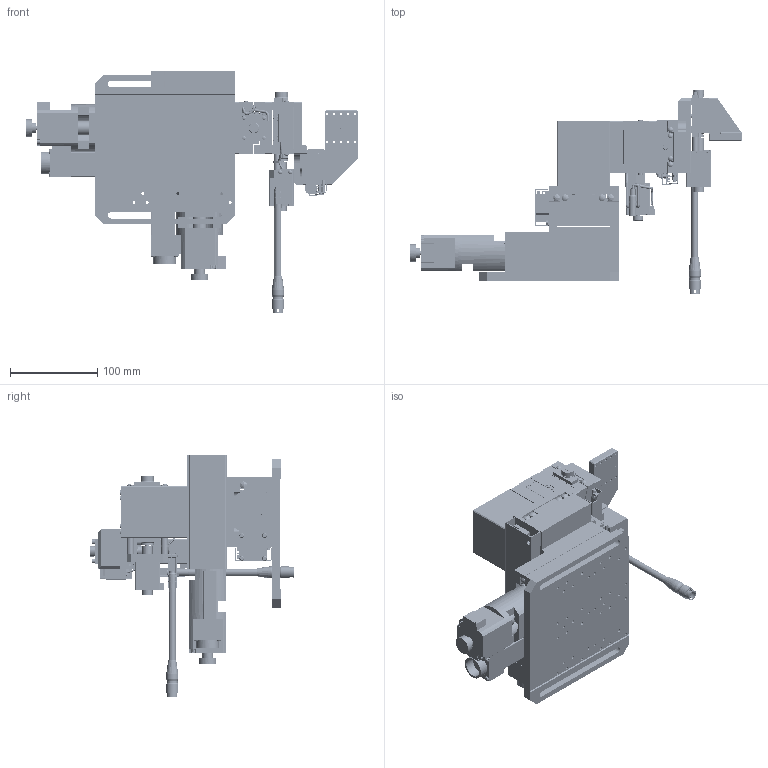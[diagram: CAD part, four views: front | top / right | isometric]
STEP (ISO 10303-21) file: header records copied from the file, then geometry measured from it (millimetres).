
FILE_DESCRIPTION (( 'STEP AP203' ), '1' );
FILE_NAME ('ES5212-L.STEP', '2024-09-18T05:38:43', ( '' ), ( '' ), 'SwSTEP 2.0', 'SolidWorks 2017', '' );
FILE_SCHEMA (( 'CONFIG_CONTROL_DESIGN' ));
Length unit declared in the file: millimetre
Products named in the file (61): ES5212-L+01-prt35; ES5212-L+01-prt23; ES5212-L+01-prt37; ES5212-L+01-prt58; ES5212-L+01-prt17; ES5212-L+01-prt5; ES5212-L+01-prt18; ES5212-L+01-prt26; ES5212-L+01-prt8; ES5212-L+01-prt47; ES5212-L+01-prt53; ES5212-L+01-prt41; ES5212-L+01-prt30; ES5212-L+01-prt27; ES5212-L+01-prt11; ES5212-L+01-prt43; ES5212-L+01-prt2; ES5212-L+01-prt21; ES5212-L+01-prt56; ES5212-L+01-prt12; ES5212-L+01-prt14; ES5212-L+01-prt15; ES5212-L+01-prt51; ES5212-L+01-prt7; ES5212-L+01-prt40; ES5212-L+01-prt57; ES5212-L+01-prt46; ES5212-L+01-prt39; ES5212-L+01-prt24; ES5212-L+01-prt29; ES5212-L+01-prt9; ES5212-L+01-prt55; ES5212-L+01-prt19; ES5212-L+01-prt6; ES5212-L+01-prt28; ES5212-L+01-prt54; ES5212-L+01-prt31; ES5212-L+01-prt33; ES5212-L+01-prt0; ES5212-L+01-prt49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
Assembly tree (60 placements, depth 2):
  ES5212-L
    ES5212-L+01-prt0
    ES5212-L+01-prt1
    ES5212-L+01-prt2
    ES5212-L+01-prt3
    ES5212-L+01-prt4
    ES5212-L+01-prt5
    ES5212-L+01-prt6
    ES5212-L+01-prt7
    ES5212-L+01-prt8
    ES5212-L+01-prt9
    ES5212-L+01-prt10
    ES5212-L+01-prt11
    ES5212-L+01-prt12
    ES5212-L+01-prt13
    ES5212-L+01-prt14
    ES5212-L+01-prt15
    ES5212-L+01-prt16
    ES5212-L+01-prt17
    ES5212-L+01-prt18
    ES5212-L+01-prt19
    ES5212-L+01-prt20
    ES5212-L+01-prt21
    ES5212-L+01-prt22
    ES5212-L+01-prt23
    ES5212-L+01-prt24
    ES5212-L+01-prt25
    ES5212-L+01-prt26
    ES5212-L+01-prt27
    ES5212-L+01-prt28
    ES5212-L+01-prt29
    ES5212-L+01-prt30
    ES5212-L+01-prt31
    ES5212-L+01-prt32
    ES5212-L+01-prt33
    ES5212-L+01-prt34
    ES5212-L+01-prt35
    ES5212-L+01-prt36
    ES5212-L+01-prt37
    ES5212-L+01-prt38
    ES5212-L+01-prt39
    ES5212-L+01-prt40
    ES5212-L+01-prt41
    ES5212-L+01-prt42
    ES5212-L+01-prt43
    ES5212-L+01-prt44
    ES5212-L+01-prt45
    ES5212-L+01-prt46
    ES5212-L+01-prt47
    ES5212-L+01-prt48
    ES5212-L+01-prt49
    ES5212-L+01-prt50
    ES5212-L+01-prt51
    ES5212-L+01-prt52
    ES5212-L+01-prt53
    ES5212-L+01-prt54
    ES5212-L+01-prt55
    ES5212-L+01-prt56
    ES5212-L+01-prt57
    ES5212-L+01-prt58
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Bounding box: 379.5 x 233.8 x 277.6 mm (x, y, z)
Volume: 2273985.2 mm3; surface area: 597281.7 mm2
Topology: 60 solids, 60 shells, 3986 faces, 10192 edges, 6590 vertices
Faces by surface type: plane 1902, cylinder 1534, bspline 322, sphere 83, cone 82, torus 63
Entity records: 138528 total; most frequent: CARTESIAN_POINT 34531, DIRECTION 20271, ORIENTED_EDGE 20188, EDGE_CURVE 10094, AXIS2_PLACEMENT_3D 7325, VERTEX_POINT 6588, VECTOR 5621, LINE 5621
